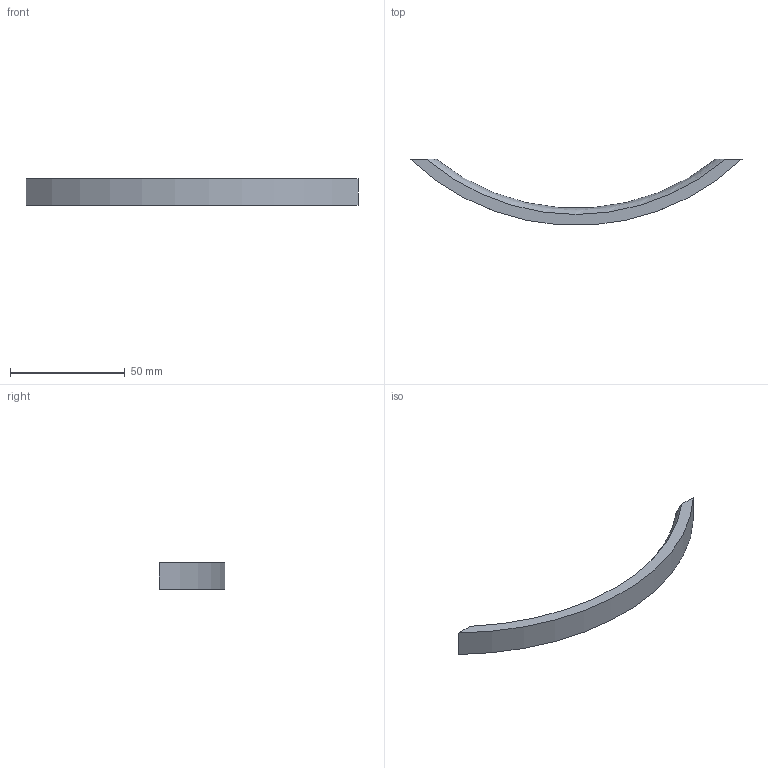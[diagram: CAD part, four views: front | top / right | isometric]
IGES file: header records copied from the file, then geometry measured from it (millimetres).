
Start section: Data from Parasolid IGES Translator 15.0.47, Copyright(c) 2006 Siemens P LM Software. All Rights Reserved.
Global section: file name: 74134.igs; native system:  By UGS Corp.; preprocessor: XPlus GENERIC/IGES 3.0; author: Noname; organization: Noname; date: 20140122.153652; units: millimetre
Bounding box: 144.98 x 28.75 x 11.5 mm (x, y, z)
Surface area: 5392.3 mm2 (no closed solid volume)
Topology: 0 solids, 0 shells, 11 faces, 42 edges, 40 vertices
Faces by surface type: extrusion 6, revolution 5
